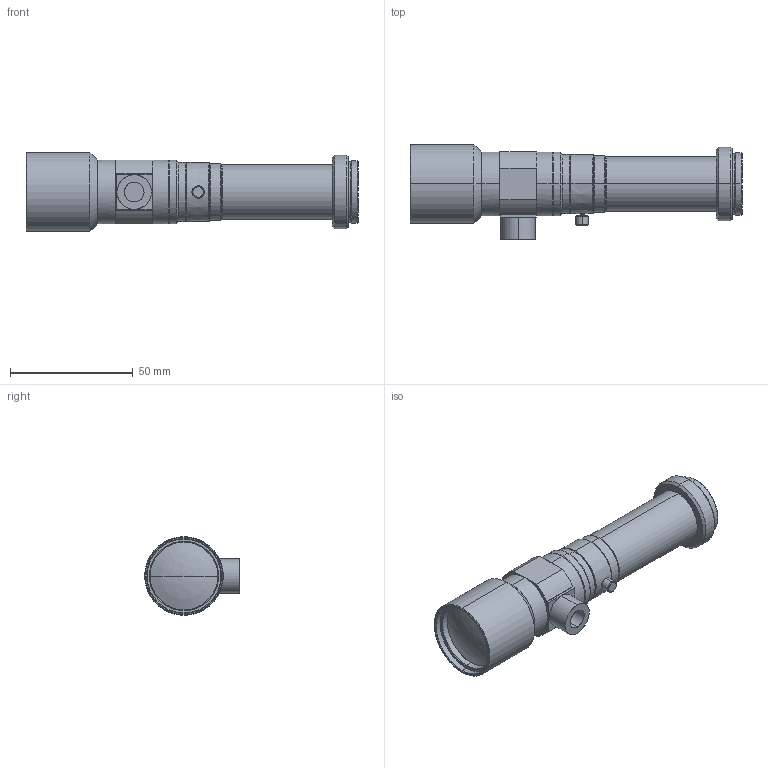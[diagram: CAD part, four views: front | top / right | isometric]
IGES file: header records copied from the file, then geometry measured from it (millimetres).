
Start section: SolidWorks IGES file using analytic representation for surfaces
Bounding box: 135 x 38.5 x 32 mm (x, y, z)
Surface area: 18181.5 mm2 (no closed solid volume)
Topology: 0 solids, 0 shells, 161 faces, 2024 edges, 2022 vertices
Faces by surface type: revolution 124, bspline 37
